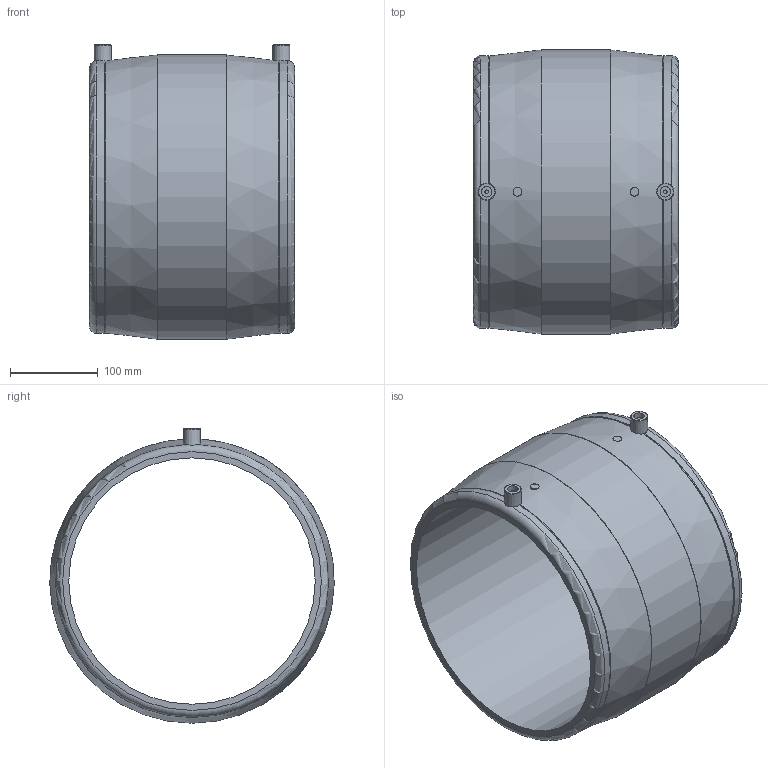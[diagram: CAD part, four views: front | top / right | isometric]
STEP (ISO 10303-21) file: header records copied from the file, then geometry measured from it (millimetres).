
FILE_DESCRIPTION(/* description */ ('Unknown'),/* implementation_level */ '2;1');
FILE_NAME(/* name */ 'MP280B',/* time_stamp */ '2021-12-09T12:16:27+01:00',/* author */ ('Unknown'),/* organization */ ('Unknown'),/* preprocessor_version */ 'ST-DEVELOPER v16.7',/* originating_system */ 'Solid Edge',/* authorisation */ 'Unknown');
FILE_SCHEMA (('AUTOMOTIVE_DESIGN {1 0 10303 214 3 1 1}'));
Length unit declared in the file: millimetre
Products named in the file (1): MP280B
Bounding box: 233 x 323 x 334.5 mm (x, y, z)
Volume: 4086806 mm3; surface area: 462895.7 mm2
Topology: 1 solids, 1 shells, 34 faces, 75 edges, 49 vertices
Faces by surface type: torus 10, cylinder 10, plane 10, cone 4
Full cylindrical faces by diameter (mm): 4 x2, 10 x2, 12 x2, 280 x1, 323 x1
Entity records: 860 total; most frequent: CARTESIAN_POINT 211, DIRECTION 130, ORIENTED_EDGE 96, AXIS2_PLACEMENT_3D 65, EDGE_LOOP 60, FACE_BOUND 60, EDGE_CURVE 48, VERTEX_POINT 40
